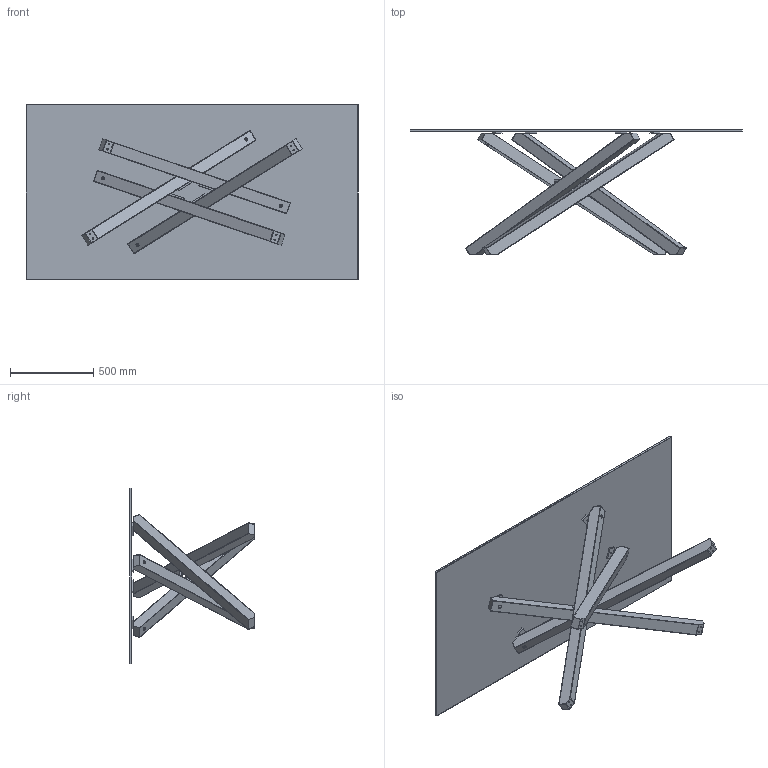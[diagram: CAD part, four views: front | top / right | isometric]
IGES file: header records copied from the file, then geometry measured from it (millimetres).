
Start section: SolidWorks IGES file using NURBS representation for surfaces
Global section: file name: R:\UFFICIO TECNICO\ARCHIVIO DISEGNI\3D\PECHINO.IGS; native system: SolidWorks 2011; preprocessor: SolidWorks 2011; author: Alberto; date: 140416.113221; units: millimetre
Bounding box: 2000 x 752.32 x 1060 mm (x, y, z)
Surface area: 7372979.3 mm2 (no closed solid volume)
Topology: 0 solids, 0 shells, 431 faces, 5422 edges, 5414 vertices
Faces by surface type: bspline 431
